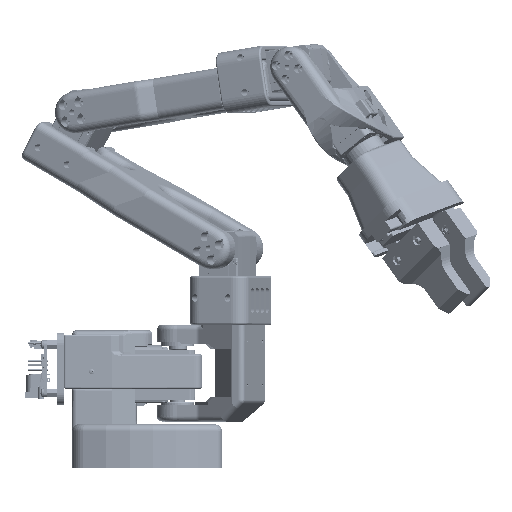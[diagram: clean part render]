
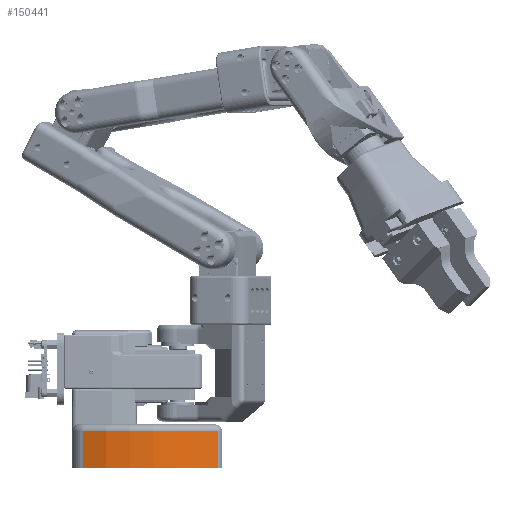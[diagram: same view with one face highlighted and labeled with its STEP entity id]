
A CAD part, left-side view. The second image highlights one B-rep face of the part: STEP entity #150441.
In plain terms, the highlighted cylindrical face has radius 80 mm (diameter 160 mm), a partial arc.
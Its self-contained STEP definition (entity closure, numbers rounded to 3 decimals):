
#11488=FACE_OUTER_BOUND('',#19807,.T.);
#19807=EDGE_LOOP('',(#103075,#103076,#103077,#103078));
#29495=LINE('',#217602,#44963);
#29501=LINE('',#217613,#44969);
#44963=VECTOR('',#175671,10.);
#44969=VECTOR('',#175687,10.);
#60373=CIRCLE('',#161962,80.);
#60417=CIRCLE('',#162032,80.);
#64874=VERTEX_POINT('',#217358);
#64875=VERTEX_POINT('',#217360);
#64919=VERTEX_POINT('',#217558);
#64920=VERTEX_POINT('',#217562);
#79924=EDGE_CURVE('',#64874,#64875,#60373,.T.);
#79996=EDGE_CURVE('',#64920,#64919,#60417,.T.);
#80012=EDGE_CURVE('',#64919,#64874,#29495,.T.);
#80018=EDGE_CURVE('',#64875,#64920,#29501,.T.);
#103075=ORIENTED_EDGE('',*,*,#79996,.F.);
#103076=ORIENTED_EDGE('',*,*,#80018,.F.);
#103077=ORIENTED_EDGE('',*,*,#79924,.F.);
#103078=ORIENTED_EDGE('',*,*,#80012,.F.);
#148220=CYLINDRICAL_SURFACE('',#162051,80.);
#150441=ADVANCED_FACE('',(#11488),#148220,.T.);
#161962=AXIS2_PLACEMENT_3D('',#217361,#175466,#175467);
#162032=AXIS2_PLACEMENT_3D('',#217564,#175632,#175633);
#162051=AXIS2_PLACEMENT_3D('',#217614,#175688,#175689);
#175466=DIRECTION('center_axis',(0.,-1.,0.));
#175467=DIRECTION('ref_axis',(-0.783,0.,
0.622));
#175632=DIRECTION('center_axis',(0.,1.,0.));
#175633=DIRECTION('ref_axis',(-0.988,0.,0.153));
#175671=DIRECTION('',(0.,-1.,0.));
#175687=DIRECTION('',(0.,1.,0.));
#175688=DIRECTION('center_axis',(0.,-1.,0.));
#175689=DIRECTION('ref_axis',(0.899,0.,0.437));
#217358=CARTESIAN_POINT('',(-33.94,-7.6,68.733));
#217360=CARTESIAN_POINT('',(-46.05,-7.6,-9.566));
#217361=CARTESIAN_POINT('Origin',(28.691,-7.6,18.96));
#217558=CARTESIAN_POINT('',(-33.94,13.5,68.733));
#217562=CARTESIAN_POINT('',(-46.05,13.5,-9.566));
#217564=CARTESIAN_POINT('Origin',(28.691,13.5,18.96));
#217602=CARTESIAN_POINT('',(-33.94,17.5,68.733));
#217613=CARTESIAN_POINT('',(-46.05,17.5,-9.566));
#217614=CARTESIAN_POINT('Origin',(28.691,17.5,18.96));
